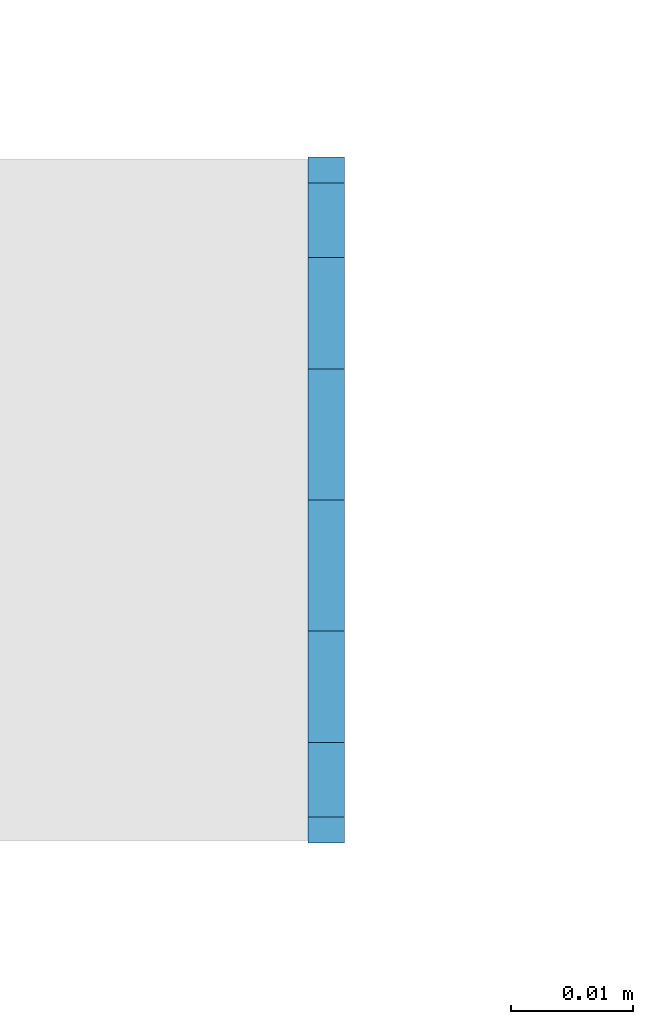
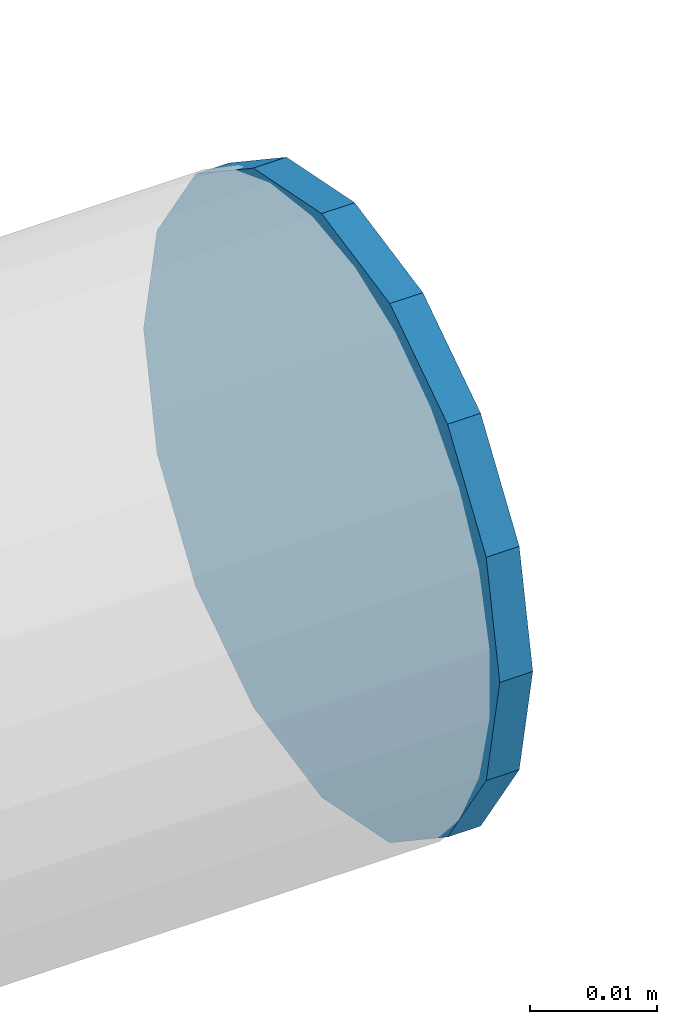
# One storey, part 56 of 186: 1 beam.
"""IFC4X3_ADD2 building model written with IfcOpenShell, lengths in millimetres."""

from ifc_helpers import new_model, si_unit, direction, frame, origin_with_axes, place, context, subcontext, project, spatial, indexed_curve, outline, extrude, material, element, save


model = new_model("IFC4X3_ADD2")

# Units and contexts
model_context = context("Model", 3, precision=1e-05, world=origin_with_axes(), true_north=direction((0.0, 1.0)))
body_context = subcontext(model_context, "Body", "Model", "MODEL_VIEW")
ifc_project = project(units=[si_unit("LENGTHUNIT", "METRE", prefix="MILLI"), si_unit("AREAUNIT", "SQUARE_METRE"), si_unit("VOLUMEUNIT", "CUBIC_METRE"), si_unit("PLANEANGLEUNIT", "RADIAN"), si_unit("TIMEUNIT", "SECOND"), si_unit("MASSUNIT", "GRAM")], contexts=[model_context])

# Site, building, storey
site_placement = place(None, origin_with_axes())
site = spatial("IfcSite", under=ifc_project, at=site_placement, Name="Site", CompositionType="ELEMENT")
building_placement = place(site_placement, origin_with_axes())
building = spatial("IfcBuilding", under=site, at=building_placement, Name="IFC Building Story")
storey_placement = place(building_placement, frame((0.0, 0.0, 4370.0), z_axis=(0.0, 0.0, 1.0), x_axis=(1.0, 0.0, 0.0)))
storey = spatial("IfcBuildingStorey", under=building, at=storey_placement, Name="ETAGE 10 (1)", Elevation=4370.0)

# Beam
ifc_material = material(Name="STEEL/Accessory 22919")
beam_placement = place(storey_placement, frame((5156.189348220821, 349.9999637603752, 1753.947999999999), z_axis=(-1.0, 0.0, 0.0), x_axis=(0.0, 0.5555702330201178, 0.8314696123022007)))
element("IfcBeam", 1, at=beam_placement, inside=storey, material=ifc_material, Name="TA4", ObjectType="D56", context=body_context, shape_type="SweptSolid", body=[
    extrude(outline(indexed_curve([(23.28114914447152, 15.55596652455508), (27.46198785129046, 5.462529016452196), (27.46198785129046, -5.462529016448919), (23.28114914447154, -15.55596652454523), (15.55596652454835, -23.28114914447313), (5.462529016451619, -27.46198785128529), (-5.462529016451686, -27.46198785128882), (-15.55596652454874, -23.28114914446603), (-23.2811491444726, -15.55596652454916), (-27.46198785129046, -5.462529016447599), (-27.46198785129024, 5.462529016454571), (-23.28114914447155, 15.55596652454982), (-15.55596652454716, 23.28114914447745), (-5.462529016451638, 27.46198785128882), (5.462529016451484, 27.46198785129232), (15.55596652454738, 23.28114914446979), (23.28114914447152, 15.55596652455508)])), origin_with_axes(), (0.0, 0.0, 1.0), 3.0),
])

save(model, "model.ifc")
